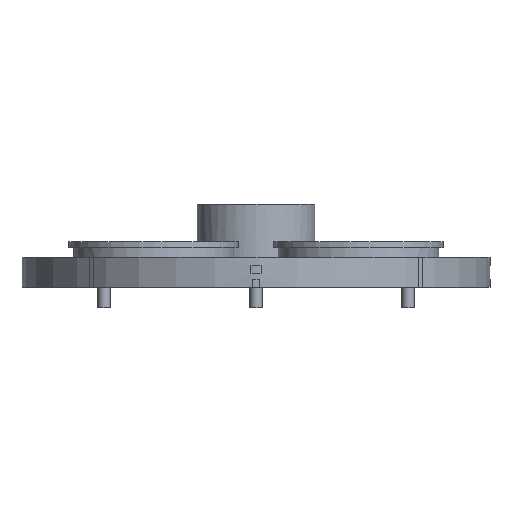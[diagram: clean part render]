
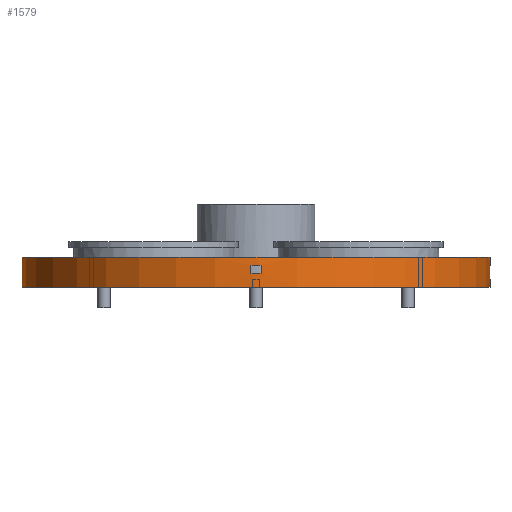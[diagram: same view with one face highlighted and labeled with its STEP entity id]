
A CAD part, front view. The second image highlights one B-rep face of the part: STEP entity #1579.
In plain terms, the highlighted cylindrical face has radius 231 mm (diameter 462 mm), a full revolution.
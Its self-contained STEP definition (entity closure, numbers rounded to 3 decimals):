
#156 = EDGE_CURVE('',#157,#157,#159,.T.);
#157 = VERTEX_POINT('',#158);
#158 = CARTESIAN_POINT('',(231.,0.,0.));
#159 = CIRCLE('',#160,231.);
#160 = AXIS2_PLACEMENT_3D('',#161,#162,#163);
#161 = CARTESIAN_POINT('',(0.,0.,0.));
#162 = DIRECTION('',(0.,0.,1.));
#163 = DIRECTION('',(1.,0.,0.));
#1579 = ADVANCED_FACE('',(#1580,#1658,#1694,#1730,#1766),#1802,.T.);
#1580 = FACE_BOUND('',#1581,.T.);
#1581 = EDGE_LOOP('',(#1582,#1592,#1599,#1600,#1609,#1617,#1626,#1632,
    #1633,#1634,#1643,#1651));
#1582 = ORIENTED_EDGE('',*,*,#1583,.T.);
#1583 = EDGE_CURVE('',#1584,#1586,#1588,.T.);
#1584 = VERTEX_POINT('',#1585);
#1585 = CARTESIAN_POINT('',(231.,0.,22.));
#1586 = VERTEX_POINT('',#1587);
#1587 = CARTESIAN_POINT('',(231.,0.,30.));
#1588 = LINE('',#1589,#1590);
#1589 = CARTESIAN_POINT('',(231.,0.,0.));
#1590 = VECTOR('',#1591,1.);
#1591 = DIRECTION('',(0.,0.,1.));
#1592 = ORIENTED_EDGE('',*,*,#1593,.F.);
#1593 = EDGE_CURVE('',#1586,#1586,#1594,.T.);
#1594 = CIRCLE('',#1595,231.);
#1595 = AXIS2_PLACEMENT_3D('',#1596,#1597,#1598);
#1596 = CARTESIAN_POINT('',(0.,0.,30.));
#1597 = DIRECTION('',(0.,0.,1.));
#1598 = DIRECTION('',(1.,0.,0.));
#1599 = ORIENTED_EDGE('',*,*,#1583,.F.);
#1600 = ORIENTED_EDGE('',*,*,#1601,.T.);
#1601 = EDGE_CURVE('',#1584,#1602,#1604,.T.);
#1602 = VERTEX_POINT('',#1603);
#1603 = CARTESIAN_POINT('',(230.894,7.,22.));
#1604 = CIRCLE('',#1605,231.);
#1605 = AXIS2_PLACEMENT_3D('',#1606,#1607,#1608);
#1606 = CARTESIAN_POINT('',(0.,0.,22.));
#1607 = DIRECTION('',(0.,0.,1.));
#1608 = DIRECTION('',(1.,0.,0.));
#1609 = ORIENTED_EDGE('',*,*,#1610,.F.);
#1610 = EDGE_CURVE('',#1611,#1602,#1613,.T.);
#1611 = VERTEX_POINT('',#1612);
#1612 = CARTESIAN_POINT('',(230.894,7.,8.));
#1613 = LINE('',#1614,#1615);
#1614 = CARTESIAN_POINT('',(230.894,7.,0.));
#1615 = VECTOR('',#1616,1.);
#1616 = DIRECTION('',(0.,0.,1.));
#1617 = ORIENTED_EDGE('',*,*,#1618,.F.);
#1618 = EDGE_CURVE('',#1619,#1611,#1621,.T.);
#1619 = VERTEX_POINT('',#1620);
#1620 = CARTESIAN_POINT('',(231.,0.,8.));
#1621 = CIRCLE('',#1622,231.);
#1622 = AXIS2_PLACEMENT_3D('',#1623,#1624,#1625);
#1623 = CARTESIAN_POINT('',(0.,0.,8.));
#1624 = DIRECTION('',(0.,0.,1.));
#1625 = DIRECTION('',(1.,0.,0.));
#1626 = ORIENTED_EDGE('',*,*,#1627,.F.);
#1627 = EDGE_CURVE('',#157,#1619,#1628,.T.);
#1628 = LINE('',#1629,#1630);
#1629 = CARTESIAN_POINT('',(231.,0.,0.));
#1630 = VECTOR('',#1631,1.);
#1631 = DIRECTION('',(0.,0.,1.));
#1632 = ORIENTED_EDGE('',*,*,#156,.T.);
#1633 = ORIENTED_EDGE('',*,*,#1627,.T.);
#1634 = ORIENTED_EDGE('',*,*,#1635,.F.);
#1635 = EDGE_CURVE('',#1636,#1619,#1638,.T.);
#1636 = VERTEX_POINT('',#1637);
#1637 = CARTESIAN_POINT('',(230.894,-7.,8.));
#1638 = CIRCLE('',#1639,231.);
#1639 = AXIS2_PLACEMENT_3D('',#1640,#1641,#1642);
#1640 = CARTESIAN_POINT('',(0.,0.,8.));
#1641 = DIRECTION('',(0.,0.,1.));
#1642 = DIRECTION('',(1.,0.,0.));
#1643 = ORIENTED_EDGE('',*,*,#1644,.T.);
#1644 = EDGE_CURVE('',#1636,#1645,#1647,.T.);
#1645 = VERTEX_POINT('',#1646);
#1646 = CARTESIAN_POINT('',(230.894,-7.,22.));
#1647 = LINE('',#1648,#1649);
#1648 = CARTESIAN_POINT('',(230.894,-7.,0.));
#1649 = VECTOR('',#1650,1.);
#1650 = DIRECTION('',(0.,0.,1.));
#1651 = ORIENTED_EDGE('',*,*,#1652,.T.);
#1652 = EDGE_CURVE('',#1645,#1584,#1653,.T.);
#1653 = CIRCLE('',#1654,231.);
#1654 = AXIS2_PLACEMENT_3D('',#1655,#1656,#1657);
#1655 = CARTESIAN_POINT('',(0.,0.,22.));
#1656 = DIRECTION('',(0.,0.,1.));
#1657 = DIRECTION('',(1.,0.,0.));
#1658 = FACE_BOUND('',#1659,.T.);
#1659 = EDGE_LOOP('',(#1660,#1671,#1679,#1688));
#1660 = ORIENTED_EDGE('',*,*,#1661,.F.);
#1661 = EDGE_CURVE('',#1662,#1664,#1666,.T.);
#1662 = VERTEX_POINT('',#1663);
#1663 = CARTESIAN_POINT('',(228.306,35.179,14.));
#1664 = VERTEX_POINT('',#1665);
#1665 = CARTESIAN_POINT('',(226.569,45.027,14.));
#1666 = CIRCLE('',#1667,231.);
#1667 = AXIS2_PLACEMENT_3D('',#1668,#1669,#1670);
#1668 = CARTESIAN_POINT('',(0.,0.,14.));
#1669 = DIRECTION('',(0.,0.,1.));
#1670 = DIRECTION('',(1.,0.,0.));
#1671 = ORIENTED_EDGE('',*,*,#1672,.T.);
#1672 = EDGE_CURVE('',#1662,#1673,#1675,.T.);
#1673 = VERTEX_POINT('',#1674);
#1674 = CARTESIAN_POINT('',(228.306,35.179,22.));
#1675 = LINE('',#1676,#1677);
#1676 = CARTESIAN_POINT('',(228.306,35.179,0.));
#1677 = VECTOR('',#1678,1.);
#1678 = DIRECTION('',(0.,0.,1.));
#1679 = ORIENTED_EDGE('',*,*,#1680,.T.);
#1680 = EDGE_CURVE('',#1673,#1681,#1683,.T.);
#1681 = VERTEX_POINT('',#1682);
#1682 = CARTESIAN_POINT('',(226.569,45.027,22.));
#1683 = CIRCLE('',#1684,231.);
#1684 = AXIS2_PLACEMENT_3D('',#1685,#1686,#1687);
#1685 = CARTESIAN_POINT('',(0.,0.,22.));
#1686 = DIRECTION('',(0.,0.,1.));
#1687 = DIRECTION('',(1.,0.,0.));
#1688 = ORIENTED_EDGE('',*,*,#1689,.F.);
#1689 = EDGE_CURVE('',#1664,#1681,#1690,.T.);
#1690 = LINE('',#1691,#1692);
#1691 = CARTESIAN_POINT('',(226.569,45.027,0.));
#1692 = VECTOR('',#1693,1.);
#1693 = DIRECTION('',(0.,0.,1.));
#1694 = FACE_BOUND('',#1695,.T.);
#1695 = EDGE_LOOP('',(#1696,#1707,#1715,#1724));
#1696 = ORIENTED_EDGE('',*,*,#1697,.F.);
#1697 = EDGE_CURVE('',#1698,#1700,#1702,.T.);
#1698 = VERTEX_POINT('',#1699);
#1699 = CARTESIAN_POINT('',(5.,230.946,14.));
#1700 = VERTEX_POINT('',#1701);
#1701 = CARTESIAN_POINT('',(-5.,230.946,14.));
#1702 = CIRCLE('',#1703,231.);
#1703 = AXIS2_PLACEMENT_3D('',#1704,#1705,#1706);
#1704 = CARTESIAN_POINT('',(0.,0.,14.));
#1705 = DIRECTION('',(0.,0.,1.));
#1706 = DIRECTION('',(1.,0.,0.));
#1707 = ORIENTED_EDGE('',*,*,#1708,.T.);
#1708 = EDGE_CURVE('',#1698,#1709,#1711,.T.);
#1709 = VERTEX_POINT('',#1710);
#1710 = CARTESIAN_POINT('',(5.,230.946,22.));
#1711 = LINE('',#1712,#1713);
#1712 = CARTESIAN_POINT('',(5.,230.946,0.));
#1713 = VECTOR('',#1714,1.);
#1714 = DIRECTION('',(0.,0.,1.));
#1715 = ORIENTED_EDGE('',*,*,#1716,.T.);
#1716 = EDGE_CURVE('',#1709,#1717,#1719,.T.);
#1717 = VERTEX_POINT('',#1718);
#1718 = CARTESIAN_POINT('',(-5.,230.946,22.));
#1719 = CIRCLE('',#1720,231.);
#1720 = AXIS2_PLACEMENT_3D('',#1721,#1722,#1723);
#1721 = CARTESIAN_POINT('',(0.,0.,22.));
#1722 = DIRECTION('',(0.,0.,1.));
#1723 = DIRECTION('',(1.,0.,0.));
#1724 = ORIENTED_EDGE('',*,*,#1725,.F.);
#1725 = EDGE_CURVE('',#1700,#1717,#1726,.T.);
#1726 = LINE('',#1727,#1728);
#1727 = CARTESIAN_POINT('',(-5.,230.946,0.));
#1728 = VECTOR('',#1729,1.);
#1729 = DIRECTION('',(0.,0.,1.));
#1730 = FACE_BOUND('',#1731,.T.);
#1731 = EDGE_LOOP('',(#1732,#1743,#1751,#1760));
#1732 = ORIENTED_EDGE('',*,*,#1733,.F.);
#1733 = EDGE_CURVE('',#1734,#1736,#1738,.T.);
#1734 = VERTEX_POINT('',#1735);
#1735 = CARTESIAN_POINT('',(-230.946,5.,14.));
#1736 = VERTEX_POINT('',#1737);
#1737 = CARTESIAN_POINT('',(-230.946,-5.,14.));
#1738 = CIRCLE('',#1739,231.);
#1739 = AXIS2_PLACEMENT_3D('',#1740,#1741,#1742);
#1740 = CARTESIAN_POINT('',(0.,0.,14.));
#1741 = DIRECTION('',(0.,0.,1.));
#1742 = DIRECTION('',(1.,0.,0.));
#1743 = ORIENTED_EDGE('',*,*,#1744,.T.);
#1744 = EDGE_CURVE('',#1734,#1745,#1747,.T.);
#1745 = VERTEX_POINT('',#1746);
#1746 = CARTESIAN_POINT('',(-230.946,5.,22.));
#1747 = LINE('',#1748,#1749);
#1748 = CARTESIAN_POINT('',(-230.946,5.,0.));
#1749 = VECTOR('',#1750,1.);
#1750 = DIRECTION('',(0.,0.,1.));
#1751 = ORIENTED_EDGE('',*,*,#1752,.T.);
#1752 = EDGE_CURVE('',#1745,#1753,#1755,.T.);
#1753 = VERTEX_POINT('',#1754);
#1754 = CARTESIAN_POINT('',(-230.946,-5.,22.));
#1755 = CIRCLE('',#1756,231.);
#1756 = AXIS2_PLACEMENT_3D('',#1757,#1758,#1759);
#1757 = CARTESIAN_POINT('',(0.,0.,22.));
#1758 = DIRECTION('',(0.,0.,1.));
#1759 = DIRECTION('',(1.,0.,0.));
#1760 = ORIENTED_EDGE('',*,*,#1761,.F.);
#1761 = EDGE_CURVE('',#1736,#1753,#1762,.T.);
#1762 = LINE('',#1763,#1764);
#1763 = CARTESIAN_POINT('',(-230.946,-5.,0.));
#1764 = VECTOR('',#1765,1.);
#1765 = DIRECTION('',(0.,0.,1.));
#1766 = FACE_BOUND('',#1767,.T.);
#1767 = EDGE_LOOP('',(#1768,#1779,#1787,#1796));
#1768 = ORIENTED_EDGE('',*,*,#1769,.F.);
#1769 = EDGE_CURVE('',#1770,#1772,#1774,.T.);
#1770 = VERTEX_POINT('',#1771);
#1771 = CARTESIAN_POINT('',(-5.,-230.946,14.));
#1772 = VERTEX_POINT('',#1773);
#1773 = CARTESIAN_POINT('',(5.,-230.946,14.));
#1774 = CIRCLE('',#1775,231.);
#1775 = AXIS2_PLACEMENT_3D('',#1776,#1777,#1778);
#1776 = CARTESIAN_POINT('',(0.,0.,14.));
#1777 = DIRECTION('',(0.,0.,1.));
#1778 = DIRECTION('',(1.,0.,0.));
#1779 = ORIENTED_EDGE('',*,*,#1780,.T.);
#1780 = EDGE_CURVE('',#1770,#1781,#1783,.T.);
#1781 = VERTEX_POINT('',#1782);
#1782 = CARTESIAN_POINT('',(-5.,-230.946,22.));
#1783 = LINE('',#1784,#1785);
#1784 = CARTESIAN_POINT('',(-5.,-230.946,0.));
#1785 = VECTOR('',#1786,1.);
#1786 = DIRECTION('',(0.,0.,1.));
#1787 = ORIENTED_EDGE('',*,*,#1788,.T.);
#1788 = EDGE_CURVE('',#1781,#1789,#1791,.T.);
#1789 = VERTEX_POINT('',#1790);
#1790 = CARTESIAN_POINT('',(5.,-230.946,22.));
#1791 = CIRCLE('',#1792,231.);
#1792 = AXIS2_PLACEMENT_3D('',#1793,#1794,#1795);
#1793 = CARTESIAN_POINT('',(0.,0.,22.));
#1794 = DIRECTION('',(0.,0.,1.));
#1795 = DIRECTION('',(1.,0.,0.));
#1796 = ORIENTED_EDGE('',*,*,#1797,.F.);
#1797 = EDGE_CURVE('',#1772,#1789,#1798,.T.);
#1798 = LINE('',#1799,#1800);
#1799 = CARTESIAN_POINT('',(5.,-230.946,0.));
#1800 = VECTOR('',#1801,1.);
#1801 = DIRECTION('',(0.,0.,1.));
#1802 = CYLINDRICAL_SURFACE('',#1803,231.);
#1803 = AXIS2_PLACEMENT_3D('',#1804,#1805,#1806);
#1804 = CARTESIAN_POINT('',(0.,0.,0.));
#1805 = DIRECTION('',(0.,0.,1.));
#1806 = DIRECTION('',(1.,0.,0.));
